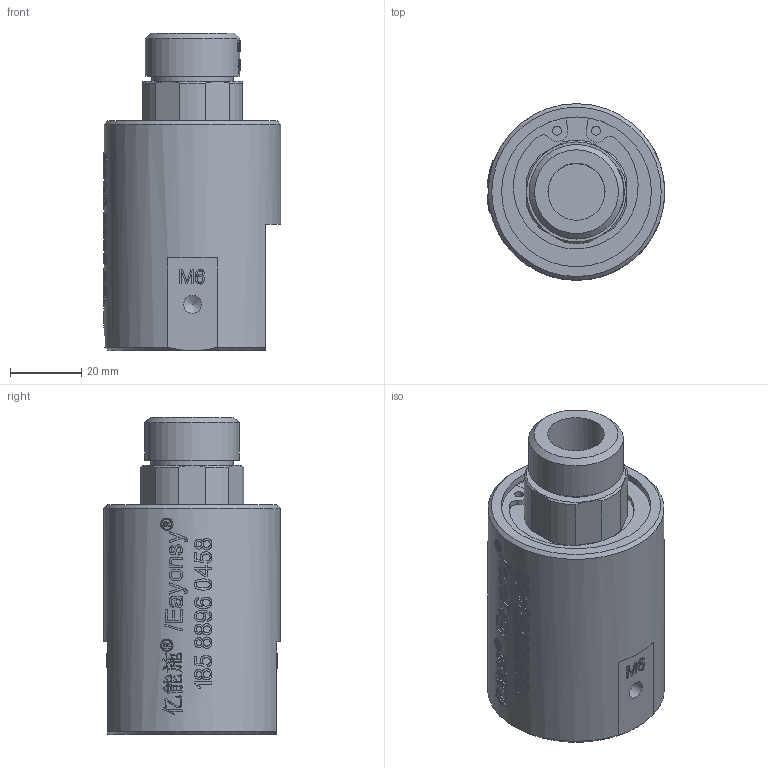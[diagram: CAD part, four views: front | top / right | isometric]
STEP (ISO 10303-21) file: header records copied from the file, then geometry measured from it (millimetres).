
FILE_DESCRIPTION(/* description */ (''),/* implementation_level */ '2;1');
FILE_NAME(/* name */ 'YC0106(RH)-3D模型.stp',/* time_stamp */ '2025-07-07T10:31:04+08:00',/* author */ (''),/* organization */ (''),/* preprocessor_version */ 'ST-DEVELOPER v16.7',/* originating_system */ 'SIEMENS PLM Software NX 12.0',/* authorisation */ '');
FILE_SCHEMA (('AUTOMOTIVE_DESIGN { 1 0 10303 214 3 1 1 1 }'));
Products named in the file (1): Admi1AA49A9B0abr
Bounding box: 49.79 x 49.5 x 89 mm (x, y, z)
Volume: 109995.4 mm3; surface area: 22464.8 mm2
Topology: 1 solids, 1 shells, 1200 faces, 3334 edges, 2221 vertices
Faces by surface type: extrusion 709, plane 375, bspline 53, cylinder 50, cone 13
Full cylindrical faces by diameter (mm): 2.5 x2, 5 x2, 16 x2, 23 x1, 24 x1, 26.5 x1, 42 x1, 44.5 x1, 49.5 x1
Entity records: 49479 total; most frequent: CARTESIAN_POINT 24139, ORIENTED_EDGE 6586, B_SPLINE_CURVE_WITH_KNOTS 3389, EDGE_CURVE 3293, DIRECTION 2453, VERTEX_POINT 2203, EDGE_LOOP 1304, ADVANCED_FACE 1198
